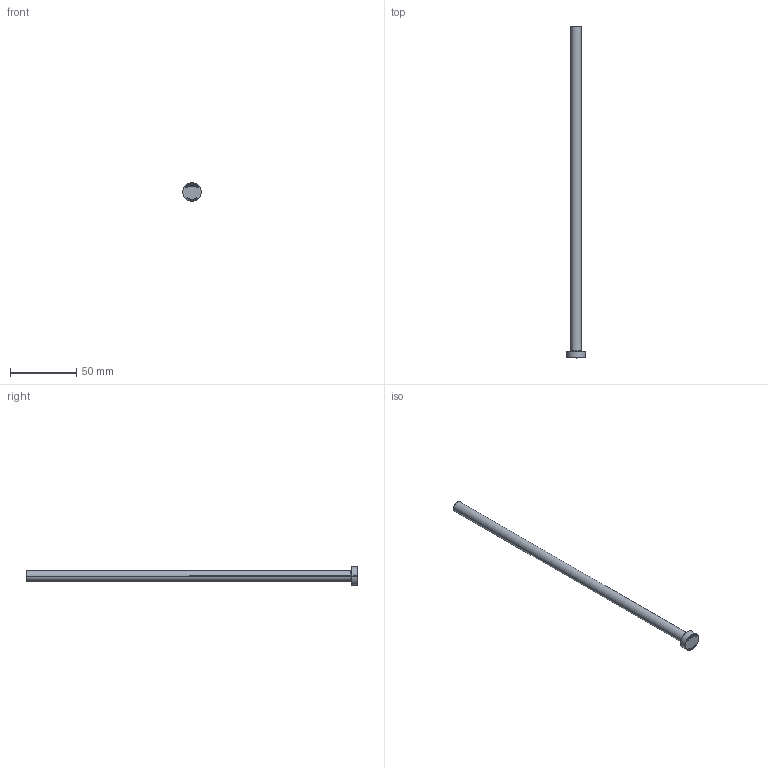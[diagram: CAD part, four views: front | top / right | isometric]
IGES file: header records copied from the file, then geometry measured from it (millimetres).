
Start section: SolidWorks IGES file using analytic representation for surfaces
Global section: file name: C:\Users\User\Downloads\Matripeça 31-08 tar\PB - PINO EXTRATOR TIPO _B_ (CATÁLOGO)\PB08,0\PB08,0250.IGS; native system: SolidWorks 2024; preprocessor: SolidWorks 2024; author: User; date: 260901.145753; units: millimetre
Bounding box: 14 x 250 x 14 mm (x, y, z)
Surface area: 6691.3 mm2 (no closed solid volume)
Topology: 0 solids, 0 shells, 411 faces, 4092 edges, 4092 vertices
Faces by surface type: bspline 397, revolution 14
